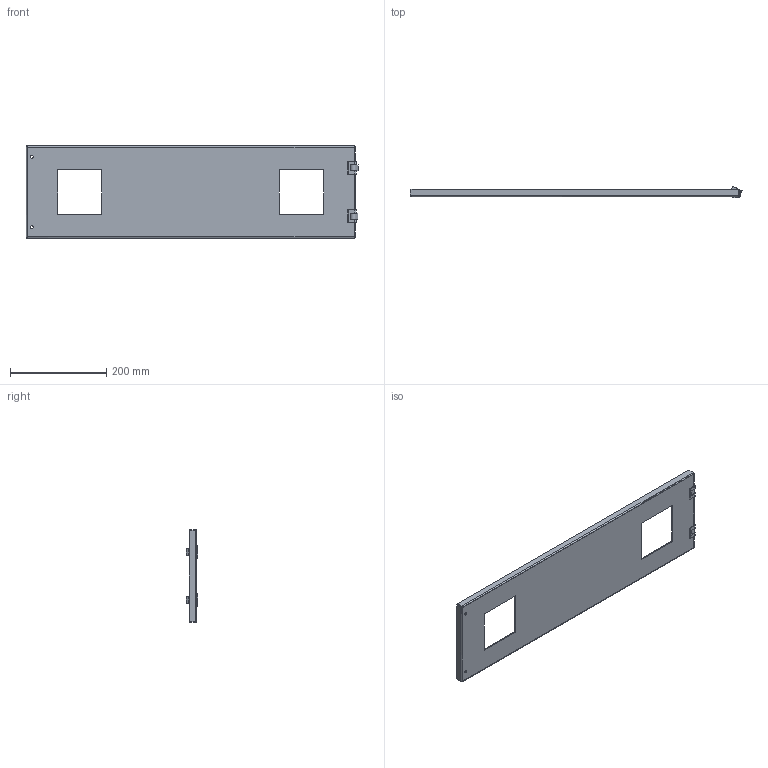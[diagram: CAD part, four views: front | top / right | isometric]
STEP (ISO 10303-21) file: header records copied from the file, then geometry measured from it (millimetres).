
FILE_DESCRIPTION (( 'STEP AP203' ), '1' );
FILE_NAME ('ÄâåðüÌîäóëüíàÿÄëÿÈçìåðÏðèá200x800-2-92x92(260270)ÂÑáîðå.STEP', '2018-08-03T10:42:27', ( '' ), ( '' ), 'SwSTEP 2.0', 'SolidWorks 2018', '' );
FILE_SCHEMA (( 'CONFIG_CONTROL_DESIGN' ));
Length unit declared in the file: millimetre
Products named in the file (9): ÄâåðüÌîäóëüíàÿÄëÿÈçìåðÏðèá200x800-2-92x92(260270)ÂÑáîðå; ÄâåðüÌîäóëüíàÿÄëÿÈçìåðÏðèá200x800-2-92x92(260270); ÏåòëÿÄâåðüÌîäóëüíàÿ; ÏåòëÿÄâåðüÌîäóëüíàÿ_1
Assembly tree (5 placements, depth 2):
  ÄâåðüÌîäóëüíàÿÄëÿÈçìåðÏðèá200x800-2-92x92(260270)ÂÑáîðå
    ÄâåðüÌîäóëüíàÿÄëÿÈçìåðÏðèá200x800-2-92x92(260270)
    ÏåòëÿÄâåðüÌîäóëüíàÿ  x2
    ÏåòëÿÄâåðüÌîäóëüíàÿ_1  x2
  ÏåòëÿÄâåðüÌîäóëüíàÿ
  ÏåòëÿÄâåðüÌîäóëüíàÿ_1
  ÏåòëÿÄâåðüÌîäóëüíàÿ_1
  ÄâåðüÌîäóëüíàÿÄëÿÈçìåðÏðèá200x800-2-92x92(260270)
Bounding box: 688.24 x 23.49 x 192 mm (x, y, z)
Volume: 278058.4 mm3; surface area: 281983.1 mm2
Topology: 5 solids, 5 shells, 190 faces, 482 edges, 300 vertices
Faces by surface type: plane 122, cylinder 56, bspline 8, cone 4
Entity records: 5064 total; most frequent: CARTESIAN_POINT 1133, ORIENTED_EDGE 650, DIRECTION 616, EDGE_CURVE 325, LINE 238, VECTOR 238, VERTEX_POINT 198, AXIS2_PLACEMENT_3D 189
